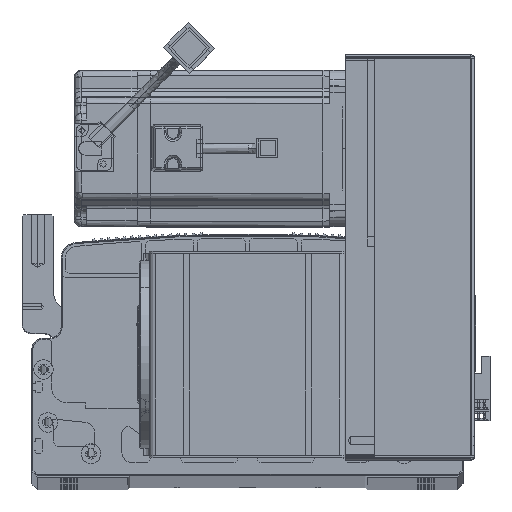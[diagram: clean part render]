
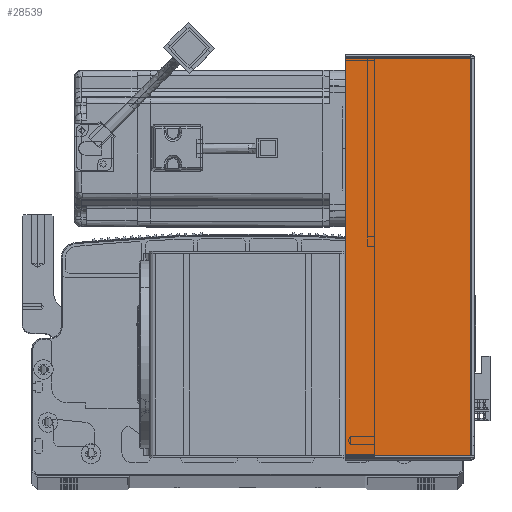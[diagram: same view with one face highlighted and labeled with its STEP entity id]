
A CAD part, top view. The second image highlights one B-rep face of the part: STEP entity #28539.
In plain terms, the highlighted planar face has unit normal (0, 0, 1) as drawn and (0, -1, 0) by its records, which use the part's own axes.
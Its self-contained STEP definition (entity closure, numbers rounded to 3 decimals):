
#1599 = LINE ( 'NONE', #12648, #72750 ) ;
#6669 = VECTOR ( 'NONE', #89663, 1000. ) ;
#10854 = AXIS2_PLACEMENT_3D ( 'NONE', #12321, #31073, #53847 ) ;
#11665 = LINE ( 'NONE', #65563, #6669 ) ;
#11821 = EDGE_LOOP ( 'NONE', ( #58523, #35550, #41403, #76297 ) ) ;
#12020 = VECTOR ( 'NONE', #31507, 1000. ) ;
#12321 = CARTESIAN_POINT ( 'NONE',  ( 0., -1.5, 0. ) ) ;
#12648 = CARTESIAN_POINT ( 'NONE',  ( 0., -1.5, -0.707 ) ) ;
#17319 = EDGE_CURVE ( 'NONE', #34217, #28751, #55579, .T. ) ;
#27374 = CARTESIAN_POINT ( 'NONE',  ( 64.5, -1.5, 0. ) ) ;
#28539 = ADVANCED_FACE ( 'NONE', ( #52205 ), #99983, .F. ) ;
#28751 = VERTEX_POINT ( 'NONE', #47142 ) ;
#30436 = VECTOR ( 'NONE', #74210, 1000. ) ;
#31073 = DIRECTION ( 'NONE',  ( 0., 1., 0. ) ) ;
#31507 = DIRECTION ( 'NONE',  ( 0., 0., 1. ) ) ;
#34217 = VERTEX_POINT ( 'NONE', #57506 ) ;
#35550 = ORIENTED_EDGE ( 'NONE', *, *, #84776, .T. ) ;
#41403 = ORIENTED_EDGE ( 'NONE', *, *, #91411, .T. ) ;
#47142 = CARTESIAN_POINT ( 'NONE',  ( 0.737, -1.5, -0.707 ) ) ;
#52205 = FACE_OUTER_BOUND ( 'NONE', #11821, .T. ) ;
#53847 = DIRECTION ( 'NONE',  ( -1., 0., 0. ) ) ;
#54156 = CARTESIAN_POINT ( 'NONE',  ( 64.5, -1.5, -203.293 ) ) ;
#55295 = CARTESIAN_POINT ( 'NONE',  ( 0.737, -1.5, 0. ) ) ;
#55579 = LINE ( 'NONE', #55295, #12020 ) ;
#57506 = CARTESIAN_POINT ( 'NONE',  ( 0.737, -1.5, -203.293 ) ) ;
#57937 = VERTEX_POINT ( 'NONE', #54156 ) ;
#58523 = ORIENTED_EDGE ( 'NONE', *, *, #17319, .F. ) ;
#65563 = CARTESIAN_POINT ( 'NONE',  ( 0., -1.5, -203.293 ) ) ;
#65843 = CARTESIAN_POINT ( 'NONE',  ( 64.5, -1.5, -0.707 ) ) ;
#68250 = VERTEX_POINT ( 'NONE', #65843 ) ;
#72750 = VECTOR ( 'NONE', #84594, 1000. ) ;
#74210 = DIRECTION ( 'NONE',  ( 0., 0., 1. ) ) ;
#75459 = LINE ( 'NONE', #27374, #30436 ) ;
#76297 = ORIENTED_EDGE ( 'NONE', *, *, #77094, .F. ) ;
#77094 = EDGE_CURVE ( 'NONE', #28751, #68250, #1599, .T. ) ;
#84594 = DIRECTION ( 'NONE',  ( 1., 0., 0. ) ) ;
#84776 = EDGE_CURVE ( 'NONE', #34217, #57937, #11665, .T. ) ;
#89663 = DIRECTION ( 'NONE',  ( 1., 0., 0. ) ) ;
#91411 = EDGE_CURVE ( 'NONE', #57937, #68250, #75459, .T. ) ;
#99983 = PLANE ( 'NONE',  #10854 ) ;
